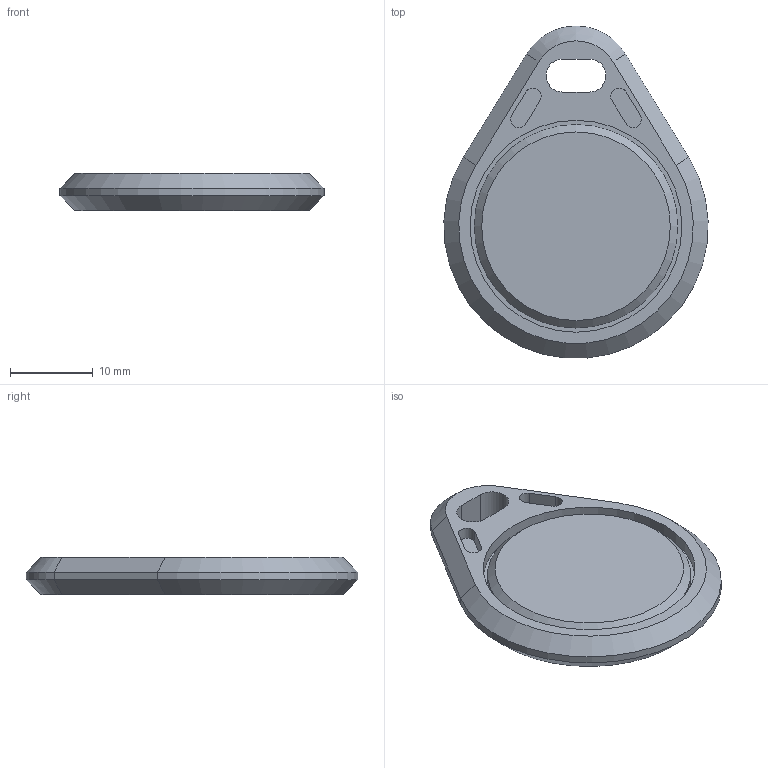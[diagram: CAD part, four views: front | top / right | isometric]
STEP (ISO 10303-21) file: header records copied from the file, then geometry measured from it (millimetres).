
FILE_DESCRIPTION(/* description */ ('Alibre Inc.'),/* implementation_level */ '2;1');
FILE_NAME(/* name */ 'export0',/* time_stamp */ '2013-07-17T12:35:55-06:00',/* author */ (''),/* organization */ (''),/* preprocessor_version */ 'ST-DEVELOPER v14',/* originating_system */ 'Alibre',/* authorisation */ '');
FILE_SCHEMA (('ALIBRE_SCHEMA','CONFIG_CONTROL_DESIGN'));
Length unit declared in the file: centimetre
Products named in the file (1): ID_1
Bounding box: 31.97 x 40.19 x 4.5 mm (x, y, z)
Volume: 3577.1 mm3; surface area: 2427.2 mm2
Topology: 1 solids, 1 shells, 43 faces, 96 edges, 61 vertices
Faces by surface type: plane 24, cylinder 14, cone 5
Full cylindrical faces by diameter (mm): 24.63 x1, 25.65 x1
Entity records: 2611 total; most frequent: CARTESIAN_POINT 413, DIRECTION 236, ORIENTED_EDGE 186, CONSTRAINTPAIRUV 133, REFERENCEDEPENDENTUV 121, VECTOR 102, PERSISTANTTOPOLOGYATTRIBUTE 94, EDGE_CURVE 93
